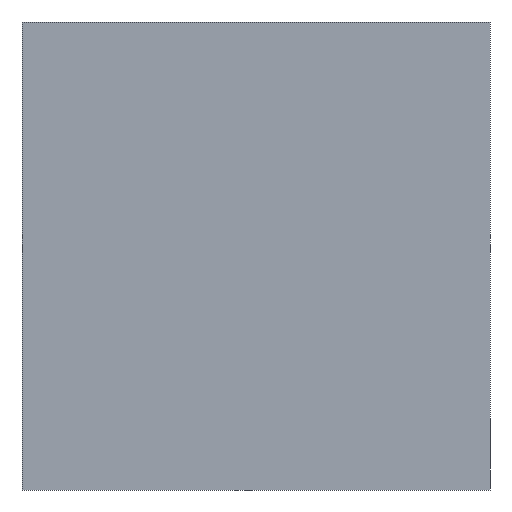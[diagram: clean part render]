
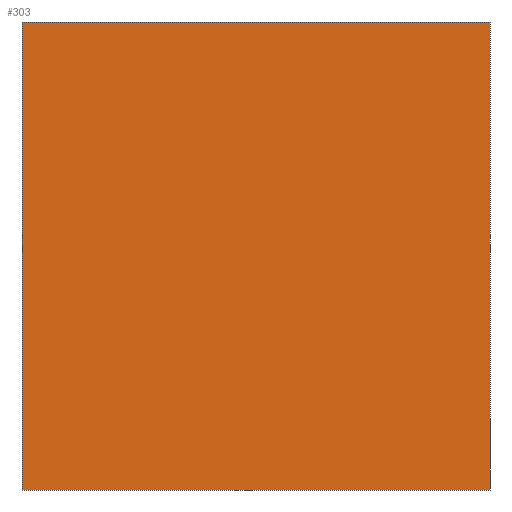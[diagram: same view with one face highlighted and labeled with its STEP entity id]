
A CAD part, front view. The second image highlights one B-rep face of the part: STEP entity #303.
In plain terms, the highlighted planar face has unit normal (0, -1, 0).
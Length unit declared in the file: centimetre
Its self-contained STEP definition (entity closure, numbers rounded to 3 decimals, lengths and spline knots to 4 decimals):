
#6 = DIRECTION ( 'NONE',  ( 0., 0., -1. ) ) ;
#9 = EDGE_CURVE ( 'NONE', #485, #281, #261, .T. ) ;
#19 = CARTESIAN_POINT ( 'NONE',  ( 0., 0., 0. ) ) ;
#23 = LINE ( 'NONE', #108, #41 ) ;
#41 = VECTOR ( 'NONE', #404, 100. ) ;
#47 = CARTESIAN_POINT ( 'NONE',  ( 0., 0., 1000. ) ) ;
#59 = ORIENTED_EDGE ( 'NONE', *, *, #9, .T. ) ;
#65 = CARTESIAN_POINT ( 'NONE',  ( 1000., 0., 0. ) ) ;
#86 = CARTESIAN_POINT ( 'NONE',  ( 1000., 0., 1000. ) ) ;
#96 = DIRECTION ( 'NONE',  ( 0., 0., -1. ) ) ;
#108 = CARTESIAN_POINT ( 'NONE',  ( 0., 0., 0. ) ) ;
#116 = PLANE ( 'NONE',  #291 ) ;
#121 = CARTESIAN_POINT ( 'NONE',  ( 1000., 0., 1000. ) ) ;
#126 = EDGE_CURVE ( 'NONE', #516, #225, #341, .T. ) ;
#158 = EDGE_LOOP ( 'NONE', ( #323, #513, #397, #59 ) ) ;
#172 = DIRECTION ( 'NONE',  ( 1., 0., 0. ) ) ;
#182 = EDGE_CURVE ( 'NONE', #281, #225, #23, .T. ) ;
#198 = FACE_OUTER_BOUND ( 'NONE', #158, .T. ) ;
#202 = VECTOR ( 'NONE', #6, 100. ) ;
#225 = VERTEX_POINT ( 'NONE', #65 ) ;
#249 = CARTESIAN_POINT ( 'NONE',  ( 0., 0., 1000. ) ) ;
#261 = LINE ( 'NONE', #345, #444 ) ;
#281 = VERTEX_POINT ( 'NONE', #19 ) ;
#285 = VECTOR ( 'NONE', #172, 100. ) ;
#291 = AXIS2_PLACEMENT_3D ( 'NONE', #376, #369, #411 ) ;
#303 = ADVANCED_FACE ( 'NONE', ( #198 ), #116, .F. ) ;
#323 = ORIENTED_EDGE ( 'NONE', *, *, #182, .T. ) ;
#341 = LINE ( 'NONE', #121, #202 ) ;
#345 = CARTESIAN_POINT ( 'NONE',  ( 0., 0., 1000. ) ) ;
#356 = EDGE_CURVE ( 'NONE', #485, #516, #386, .T. ) ;
#369 = DIRECTION ( 'NONE',  ( 0., 1., 0. ) ) ;
#376 = CARTESIAN_POINT ( 'NONE',  ( 0., 0., 1000. ) ) ;
#386 = LINE ( 'NONE', #249, #285 ) ;
#397 = ORIENTED_EDGE ( 'NONE', *, *, #356, .F. ) ;
#404 = DIRECTION ( 'NONE',  ( 1., 0., 0. ) ) ;
#411 = DIRECTION ( 'NONE',  ( 0., 0., 1. ) ) ;
#444 = VECTOR ( 'NONE', #96, 100. ) ;
#485 = VERTEX_POINT ( 'NONE', #47 ) ;
#513 = ORIENTED_EDGE ( 'NONE', *, *, #126, .F. ) ;
#516 = VERTEX_POINT ( 'NONE', #86 ) ;
